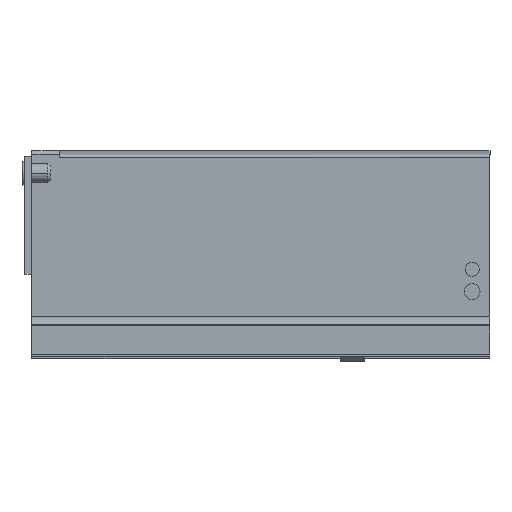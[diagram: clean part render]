
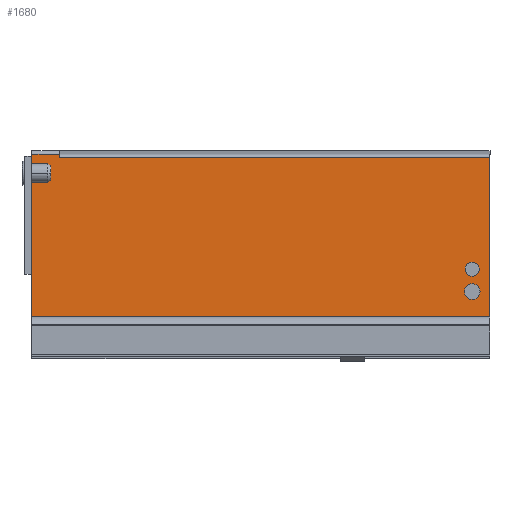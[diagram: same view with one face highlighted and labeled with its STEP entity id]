
A CAD part, left-side view. The second image highlights one B-rep face of the part: STEP entity #1680.
In plain terms, the highlighted planar face has unit normal (-1, 0, 0).
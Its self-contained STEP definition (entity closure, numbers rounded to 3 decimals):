
#89 = FACE_OUTER_BOUND ( 'NONE', #2109, .T. ) ;
#92 = FACE_BOUND ( 'NONE', #2110, .T. ) ;
#95 = FACE_BOUND ( 'NONE', #2113, .T. ) ;
#191 = CARTESIAN_POINT ( 'NONE',  ( -21.5, 267., 5.395 ) ) ;
#195 = DIRECTION ( 'NONE',  ( 0., 0., -1. ) ) ;
#234 = CARTESIAN_POINT ( 'NONE',  ( -21.5, 10.4, 20. ) ) ;
#266 = DIRECTION ( 'NONE',  ( 0., -1., 0. ) ) ;
#280 = CARTESIAN_POINT ( 'NONE',  ( -21.5, 267., 100. ) ) ;
#392 = CARTESIAN_POINT ( 'NONE',  ( -21.5, 10.4, 33. ) ) ;
#417 = DIRECTION ( 'NONE',  ( 0., 0., -1. ) ) ;
#419 = DIRECTION ( 'NONE',  ( 0., 0., -1. ) ) ;
#420 = DIRECTION ( 'NONE',  ( -1., 0., 0. ) ) ;
#421 = DIRECTION ( 'NONE',  ( -1., 0., 0. ) ) ;
#493 = DIRECTION ( 'NONE',  ( 0., 0., -1. ) ) ;
#494 = DIRECTION ( 'NONE',  ( -1., 0., 0. ) ) ;
#495 = CARTESIAN_POINT ( 'NONE',  ( -21.5, 10.4, 33. ) ) ;
#499 = DIRECTION ( 'NONE',  ( 0., 0., -1. ) ) ;
#504 = CARTESIAN_POINT ( 'NONE',  ( -21.5, 250.7, 5.395 ) ) ;
#505 = DIRECTION ( 'NONE',  ( 0., 0., -1. ) ) ;
#506 = DIRECTION ( 'NONE',  ( -1., 0., 0. ) ) ;
#513 = CARTESIAN_POINT ( 'NONE',  ( -21.5, 10.4, 20. ) ) ;
#549 = CARTESIAN_POINT ( 'NONE',  ( -21.5, 267., 100. ) ) ;
#550 = CARTESIAN_POINT ( 'NONE',  ( -21.5, 267., 5.395 ) ) ;
#562 = CARTESIAN_POINT ( 'NONE',  ( -21.5, 10.4, 24.6 ) ) ;
#564 = CARTESIAN_POINT ( 'NONE',  ( -21.5, 10.4, 28.9 ) ) ;
#566 = CARTESIAN_POINT ( 'NONE',  ( -21.5, 10.4, 37.1 ) ) ;
#587 = CARTESIAN_POINT ( 'NONE',  ( -21.5, 250.7, 100. ) ) ;
#589 = CARTESIAN_POINT ( 'NONE',  ( -21.5, 10.4, 15.4 ) ) ;
#596 = CARTESIAN_POINT ( 'NONE',  ( -21.5, 0., 98.06 ) ) ;
#628 = CARTESIAN_POINT ( 'NONE',  ( -21.5, 250.7, 98.06 ) ) ;
#663 = CARTESIAN_POINT ( 'NONE',  ( -21.5, 0., 5.395 ) ) ;
#720 = VERTEX_POINT ( 'NONE', #663 ) ;
#755 = VERTEX_POINT ( 'NONE', #628 ) ;
#787 = VERTEX_POINT ( 'NONE', #596 ) ;
#794 = VERTEX_POINT ( 'NONE', #589 ) ;
#796 = VERTEX_POINT ( 'NONE', #587 ) ;
#817 = VERTEX_POINT ( 'NONE', #566 ) ;
#819 = VERTEX_POINT ( 'NONE', #564 ) ;
#821 = VERTEX_POINT ( 'NONE', #562 ) ;
#833 = VERTEX_POINT ( 'NONE', #550 ) ;
#834 = VERTEX_POINT ( 'NONE', #549 ) ;
#881 = EDGE_CURVE ( 'NONE', #794, #821, #2316, .T. ) ;
#884 = EDGE_CURVE ( 'NONE', #796, #755, #2311, .T. ) ;
#886 = EDGE_CURVE ( 'NONE', #817, #819, #2324, .T. ) ;
#895 = AXIS2_PLACEMENT_3D ( 'NONE', #234, #421, #417 ) ;
#897 = AXIS2_PLACEMENT_3D ( 'NONE', #495, #494, #493 ) ;
#914 = EDGE_CURVE ( 'NONE', #834, #833, #2346, .T. ) ;
#951 = AXIS2_PLACEMENT_3D ( 'NONE', #1447, #1448, #1449 ) ;
#995 = AXIS2_PLACEMENT_3D ( 'NONE', #513, #506, #505 ) ;
#1052 = EDGE_CURVE ( 'NONE', #819, #817, #2492, .T. ) ;
#1060 = EDGE_CURVE ( 'NONE', #821, #794, #2504, .T. ) ;
#1083 = EDGE_CURVE ( 'NONE', #834, #796, #2540, .T. ) ;
#1107 = AXIS2_PLACEMENT_3D ( 'NONE', #392, #420, #419 ) ;
#1130 = EDGE_CURVE ( 'NONE', #787, #720, #2594, .T. ) ;
#1150 = EDGE_CURVE ( 'NONE', #755, #787, #2617, .T. ) ;
#1192 = EDGE_CURVE ( 'NONE', #833, #720, #2660, .T. ) ;
#1216 = CARTESIAN_POINT ( 'NONE',  ( -21.5, 0., 98.06 ) ) ;
#1217 = DIRECTION ( 'NONE',  ( 0., 0., -1. ) ) ;
#1241 = CARTESIAN_POINT ( 'NONE',  ( -21.5, 144.577, 98.06 ) ) ;
#1242 = DIRECTION ( 'NONE',  ( 0., -1., 0. ) ) ;
#1320 = CARTESIAN_POINT ( 'NONE',  ( -21.5, 144.577, 5.395 ) ) ;
#1321 = DIRECTION ( 'NONE',  ( 0., -1., 0. ) ) ;
#1443 = PLANE ( 'NONE',  #951 ) ;
#1447 = CARTESIAN_POINT ( 'NONE',  ( -21.5, 144.577, 98.06 ) ) ;
#1448 = DIRECTION ( 'NONE',  ( -1., 0., 0. ) ) ;
#1449 = DIRECTION ( 'NONE',  ( 0., 0., -1. ) ) ;
#1680 = ADVANCED_FACE ( 'NONE', ( #89, #92, #95 ), #1443, .T. ) ;
#2109 = EDGE_LOOP ( 'NONE', ( #2181, #2182, #2183, #2184, #2185, #2186 ) ) ;
#2110 = EDGE_LOOP ( 'NONE', ( #2187, #2188 ) ) ;
#2113 = EDGE_LOOP ( 'NONE', ( #2189, #2190 ) ) ;
#2181 = ORIENTED_EDGE ( 'NONE', *, *, #1192, .T. ) ;
#2182 = ORIENTED_EDGE ( 'NONE', *, *, #1130, .F. ) ;
#2183 = ORIENTED_EDGE ( 'NONE', *, *, #1150, .F. ) ;
#2184 = ORIENTED_EDGE ( 'NONE', *, *, #884, .F. ) ;
#2185 = ORIENTED_EDGE ( 'NONE', *, *, #1083, .F. ) ;
#2186 = ORIENTED_EDGE ( 'NONE', *, *, #914, .T. ) ;
#2187 = ORIENTED_EDGE ( 'NONE', *, *, #1052, .F. ) ;
#2188 = ORIENTED_EDGE ( 'NONE', *, *, #886, .F. ) ;
#2189 = ORIENTED_EDGE ( 'NONE', *, *, #881, .F. ) ;
#2190 = ORIENTED_EDGE ( 'NONE', *, *, #1060, .F. ) ;
#2311 = LINE ( 'NONE', #504, #2319 ) ;
#2316 = CIRCLE ( 'NONE', #995, 4.6 ) ;
#2319 = VECTOR ( 'NONE', #499, 1000. ) ;
#2324 = CIRCLE ( 'NONE', #897, 4.1 ) ;
#2346 = LINE ( 'NONE', #191, #2351 ) ;
#2351 = VECTOR ( 'NONE', #195, 1000. ) ;
#2492 = CIRCLE ( 'NONE', #1107, 4.1 ) ;
#2504 = CIRCLE ( 'NONE', #895, 4.6 ) ;
#2523 = VECTOR ( 'NONE', #266, 1000. ) ;
#2540 = LINE ( 'NONE', #280, #2523 ) ;
#2594 = LINE ( 'NONE', #1216, #2600 ) ;
#2600 = VECTOR ( 'NONE', #1217, 1000. ) ;
#2617 = LINE ( 'NONE', #1241, #2618 ) ;
#2618 = VECTOR ( 'NONE', #1242, 1000. ) ;
#2660 = LINE ( 'NONE', #1320, #2662 ) ;
#2662 = VECTOR ( 'NONE', #1321, 1000. ) ;
